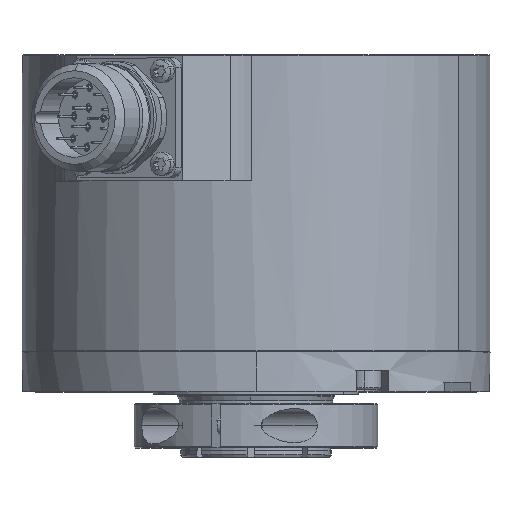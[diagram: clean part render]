
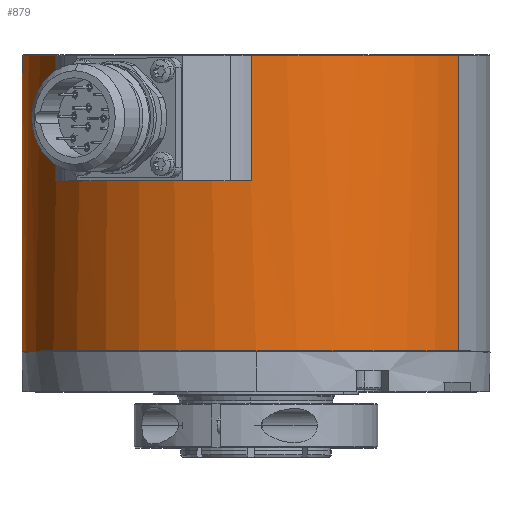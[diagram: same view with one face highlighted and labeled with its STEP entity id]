
A CAD part, top view. The second image highlights one B-rep face of the part: STEP entity #879.
In plain terms, the highlighted cylindrical face has radius 50 mm (diameter 100 mm), a partial arc.
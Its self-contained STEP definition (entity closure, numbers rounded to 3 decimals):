
#879 = ADVANCED_FACE ( 'NONE', ( #20343 ), #20357, .T. ) ;
#2296 = DIRECTION ( 'NONE',  ( 0., 1., 0. ) ) ;
#2305 = CARTESIAN_POINT ( 'NONE',  ( -43.079, 42.086, 25.818 ) ) ;
#2307 = CARTESIAN_POINT ( 'NONE',  ( -0.315, 28.586, -0.091 ) ) ;
#2308 = DIRECTION ( 'NONE',  ( 0., -1., 0. ) ) ;
#2310 = DIRECTION ( 'NONE',  ( 0.866, 0., 0.5 ) ) ;
#2313 = DIRECTION ( 'NONE',  ( 0., -1., 0. ) ) ;
#2315 = CARTESIAN_POINT ( 'NONE',  ( -1.371, 42.086, 49.898 ) ) ;
#2325 = CARTESIAN_POINT ( 'NONE',  ( -0.315, 55.386, -0.091 ) ) ;
#2327 = DIRECTION ( 'NONE',  ( 0., -1., 0. ) ) ;
#2329 = DIRECTION ( 'NONE',  ( 0.866, 0., 0.5 ) ) ;
#2350 = CARTESIAN_POINT ( 'NONE',  ( 42.986, 42.086, 24.909 ) ) ;
#2361 = DIRECTION ( 'NONE',  ( 0., 1., 0. ) ) ;
#2589 = CARTESIAN_POINT ( 'NONE',  ( -43.616, 55.386, -25.091 ) ) ;
#2631 = CARTESIAN_POINT ( 'NONE',  ( 42.986, -7.714, 24.909 ) ) ;
#2683 = CARTESIAN_POINT ( 'NONE',  ( -1.371, 28.586, 49.898 ) ) ;
#2694 = CARTESIAN_POINT ( 'NONE',  ( -43.079, 55.386, 25.818 ) ) ;
#2751 = CARTESIAN_POINT ( 'NONE',  ( -1.371, 55.386, 49.898 ) ) ;
#4703 = CIRCLE ( 'NONE', #30692, 50. ) ;
#4728 = CIRCLE ( 'NONE', #30697, 50. ) ;
#6262 = CARTESIAN_POINT ( 'NONE',  ( -0.315, -7.714, -0.091 ) ) ;
#6263 = DIRECTION ( 'NONE',  ( 0., 1., 0. ) ) ;
#6264 = DIRECTION ( 'NONE',  ( -0.866, 0., -0.5 ) ) ;
#6287 = CARTESIAN_POINT ( 'NONE',  ( -0.315, 55.386, -0.091 ) ) ;
#6288 = DIRECTION ( 'NONE',  ( 0., -1., 0. ) ) ;
#6289 = DIRECTION ( 'NONE',  ( 0.866, 0., 0.5 ) ) ;
#10237 = CARTESIAN_POINT ( 'NONE',  ( 42.986, 55.386, 24.909 ) ) ;
#10931 = CARTESIAN_POINT ( 'NONE',  ( -43.616, -7.714, -25.091 ) ) ;
#10963 = CARTESIAN_POINT ( 'NONE',  ( -43.079, 28.586, 25.818 ) ) ;
#12266 = EDGE_CURVE ( 'NONE', #35158, #12657, #32668, .T. ) ;
#12271 = EDGE_CURVE ( 'NONE', #12711, #35192, #32673, .T. ) ;
#12272 = EDGE_CURVE ( 'NONE', #35192, #12717, #32675, .T. ) ;
#12274 = EDGE_CURVE ( 'NONE', #17966, #12760, #32676, .T. ) ;
#12275 = EDGE_CURVE ( 'NONE', #12760, #12711, #32680, .T. ) ;
#12281 = EDGE_CURVE ( 'NONE', #12681, #17966, #32687, .T. ) ;
#12657 = VERTEX_POINT ( 'NONE', #2589 ) ;
#12681 = VERTEX_POINT ( 'NONE', #2631 ) ;
#12711 = VERTEX_POINT ( 'NONE', #2683 ) ;
#12717 = VERTEX_POINT ( 'NONE', #2694 ) ;
#12760 = VERTEX_POINT ( 'NONE', #2751 ) ;
#12869 = EDGE_LOOP ( 'NONE', ( #17914, #17915, #17917, #17918, #17920, #17922, #17923, #17924 ) ) ;
#14565 = EDGE_CURVE ( 'NONE', #35158, #12681, #4703, .T. ) ;
#14575 = EDGE_CURVE ( 'NONE', #12717, #12657, #4728, .T. ) ;
#16807 = AXIS2_PLACEMENT_3D ( 'NONE', #23136, #23127, #23154 ) ;
#17914 = ORIENTED_EDGE ( 'NONE', *, *, #14565, .T. ) ;
#17915 = ORIENTED_EDGE ( 'NONE', *, *, #12281, .T. ) ;
#17917 = ORIENTED_EDGE ( 'NONE', *, *, #12274, .T. ) ;
#17918 = ORIENTED_EDGE ( 'NONE', *, *, #12275, .T. ) ;
#17920 = ORIENTED_EDGE ( 'NONE', *, *, #12271, .T. ) ;
#17922 = ORIENTED_EDGE ( 'NONE', *, *, #12272, .T. ) ;
#17923 = ORIENTED_EDGE ( 'NONE', *, *, #14575, .T. ) ;
#17924 = ORIENTED_EDGE ( 'NONE', *, *, #12266, .F. ) ;
#17966 = VERTEX_POINT ( 'NONE', #10237 ) ;
#20343 = FACE_OUTER_BOUND ( 'NONE', #12869, .T. ) ;
#20357 = CYLINDRICAL_SURFACE ( 'NONE', #16807, 50. ) ;
#23127 = DIRECTION ( 'NONE',  ( 0., 1., 0. ) ) ;
#23136 = CARTESIAN_POINT ( 'NONE',  ( -0.315, 42.086, -0.091 ) ) ;
#23154 = DIRECTION ( 'NONE',  ( -0.866, 0., -0.5 ) ) ;
#30335 = AXIS2_PLACEMENT_3D ( 'NONE', #2307, #2308, #2310 ) ;
#30337 = AXIS2_PLACEMENT_3D ( 'NONE', #2325, #2327, #2329 ) ;
#30692 = AXIS2_PLACEMENT_3D ( 'NONE', #6262, #6263, #6264 ) ;
#30697 = AXIS2_PLACEMENT_3D ( 'NONE', #6287, #6288, #6289 ) ;
#32668 = LINE ( 'NONE', #34591, #32670 ) ;
#32670 = VECTOR ( 'NONE', #34592, 1000. ) ;
#32673 = CIRCLE ( 'NONE', #30335, 50. ) ;
#32675 = LINE ( 'NONE', #2305, #32678 ) ;
#32676 = CIRCLE ( 'NONE', #30337, 50. ) ;
#32678 = VECTOR ( 'NONE', #2296, 1000. ) ;
#32680 = LINE ( 'NONE', #2315, #32682 ) ;
#32682 = VECTOR ( 'NONE', #2313, 1000. ) ;
#32687 = LINE ( 'NONE', #2350, #32691 ) ;
#32691 = VECTOR ( 'NONE', #2361, 1000. ) ;
#34591 = CARTESIAN_POINT ( 'NONE',  ( -43.616, 42.086, -25.091 ) ) ;
#34592 = DIRECTION ( 'NONE',  ( 0., 1., 0. ) ) ;
#35158 = VERTEX_POINT ( 'NONE', #10931 ) ;
#35192 = VERTEX_POINT ( 'NONE', #10963 ) ;
